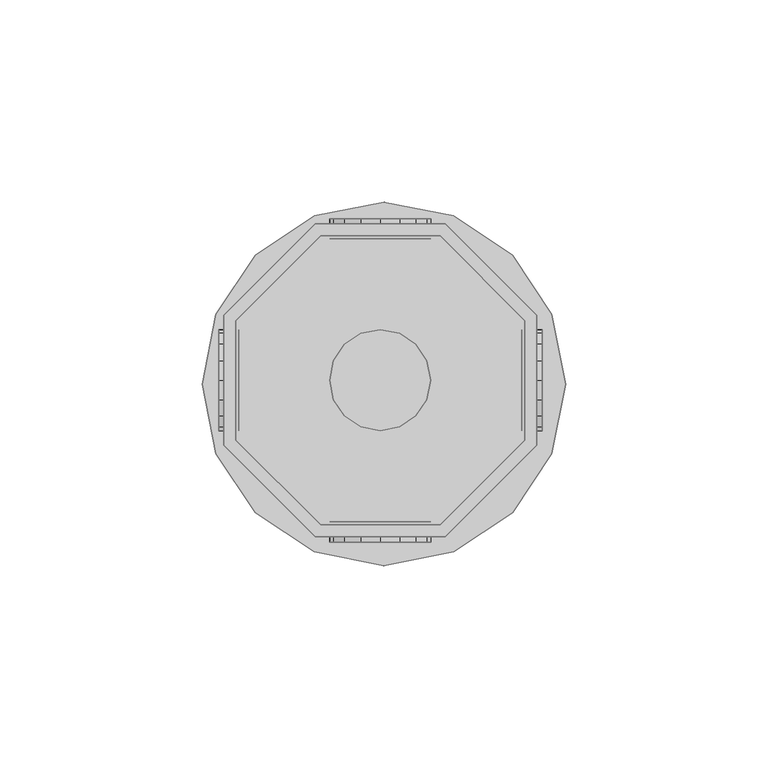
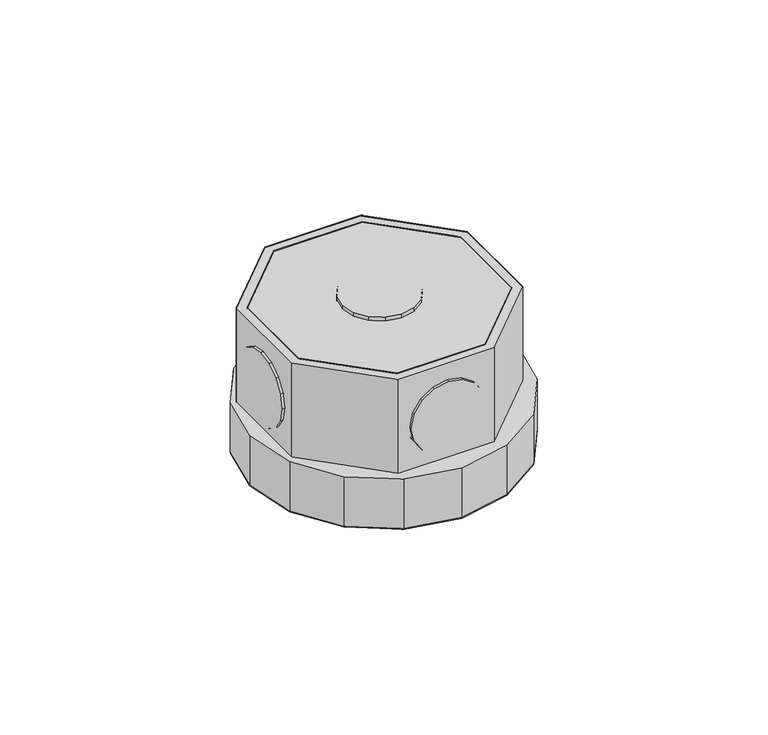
"""IFC4 building model written with IfcOpenShell, lengths in millimetres: light fixture geometry,  212836 :  212836."""

from ifc_helpers import new_model, si_unit, origin, place, context, project, spatial, triangles, source, transform, mapped, element, save


def light_fixture_33280a41(model_context):
    return source(origin(), model_context, "Body", "Tessellation", [
        triangles([(22344.998877, 12424.6997498, 2924.5999741), (22315.4006836, 12424.6997498, 2975.400071), (22315.4006836, 12424.6997498, 2924.5999741), (22344.998877, 12424.6997498, 2975.400071), (22346.2011292, 12350.199646, 2924.5999741), (22314.1007629, 12350.199646, 2975.400071), (22314.1007629, 12350.199646, 2924.5999741), (22346.2011292, 12350.199646, 2975.400071), (22294.3996399, 12403.6998688, 2975.400071), (22294.3996399, 12403.6998688, 2924.5999741), (22368.8997437, 12372.8994232, 2924.5999741), (22368.8997437, 12372.8994232, 2975.400071), (22294.3996399, 12374.1005127, 2975.400071), (22294.3996399, 12374.1005127, 2924.5999741), (22368.8997437, 12404.9997894, 2924.5999741), (22368.8997437, 12404.9997894, 2975.400071), (22315.4006836, 12353.1994629, 2975.400071), (22315.4006836, 12353.1994629, 2924.5999741), (22346.2011292, 12427.6995667, 2924.5999741), (22346.2011292, 12427.6995667, 2975.400071), (22344.998877, 12353.1994629, 2924.5999741), (22344.998877, 12353.1994629, 2975.400071), (22314.1007629, 12427.6995667, 2975.400071), (22314.1007629, 12427.6995667, 2924.5999741), (22365.8999268, 12374.1005127, 2924.5999741), (22365.8999268, 12374.1005127, 2975.400071), (22291.399823, 12404.9997894, 2975.400071), (22291.399823, 12404.9997894, 2924.5999741), (22291.399823, 12372.8994232, 2975.400071), (22365.8999268, 12403.6998688, 2975.400071), (22365.8999268, 12403.6998688, 2924.5999741), (22291.399823, 12372.8994232, 2924.5999741), (22294.3996399, 12374.1005127, 2972.3999634), (22315.4006836, 12353.1994629, 2972.3999634), (22344.998877, 12353.1994629, 2972.3999634), (22365.8999268, 12374.1005127, 2972.3999634), (22365.8999268, 12403.6998688, 2972.3999634), (22344.998877, 12424.6997498, 2972.3999634), (22315.4006836, 12424.6997498, 2972.3999634), (22294.3996399, 12403.6998688, 2972.3999634), (22291.399823, 12404.9997894, 2942.4000504), (22314.1007629, 12427.6995667, 2942.4000504), (22346.2011292, 12427.6995667, 2942.4000504), (22368.8997437, 12404.9997894, 2942.4000504), (22368.8997437, 12372.8994232, 2942.4000504), (22346.2011292, 12350.199646, 2942.4000504), (22314.1007629, 12350.199646, 2942.4000504), (22291.399823, 12372.8994232, 2942.4000504), (22313.8007812, 12346.4998718, 2942.4000504), (22289.499939, 12370.7995514, 2942.4000504), (22299.1993469, 12356.2004425, 2942.4000504), (22286.1001465, 12387.9996643, 2942.4000504), (22289.499939, 12405.2997711, 2942.4000504), (22299.1993469, 12419.9000427, 2942.4000504), (22313.8007812, 12429.5994507, 2942.4000504), (22331.0997253, 12433.0004059, 2942.4000504), (22348.301001, 12429.5994507, 2942.4000504), (22372.5995178, 12405.2997711, 2942.4000504), (22362.9001099, 12419.9000427, 2942.4000504), (22331.0997253, 12343.0000854, 2942.4000504), (22348.301001, 12346.4998718, 2942.4000504), (22362.9001099, 12356.2004425, 2942.4000504), (22372.5995178, 12370.7995514, 2942.4000504), (22376.0993042, 12387.9996643, 2942.4000504), (22289.499939, 12370.7995514, 2924.5999741), (22313.8007812, 12346.4998718, 2924.5999741), (22299.1993469, 12356.2004425, 2924.5999741), (22286.1001465, 12387.9996643, 2924.5999741), (22289.499939, 12405.2997711, 2924.5999741), (22299.1993469, 12419.9000427, 2924.5999741), (22313.8007812, 12429.5994507, 2924.5999741), (22331.0997253, 12433.0004059, 2924.5999741), (22348.301001, 12429.5994507, 2924.5999741), (22372.5995178, 12405.2997711, 2924.5999741), (22362.9001099, 12419.9000427, 2924.5999741), (22331.0997253, 12343.0000854, 2924.5999741), (22348.301001, 12346.4998718, 2924.5999741), (22362.9001099, 12356.2004425, 2924.5999741), (22372.5995178, 12370.7995514, 2924.5999741), (22376.0993042, 12387.9996643, 2924.5999741), (22318.6004883, 12428.8994934, 2952.6000092), (22325.4000732, 12428.8994934, 2945.9001274), (22321.3003235, 12428.8994934, 2948.5999626), (22317.7005432, 12428.8994934, 2957.4000069), (22330.1997803, 12428.8994934, 2944.8998978), (22318.6004883, 12428.8994934, 2962.2000046), (22334.9994873, 12428.8994934, 2945.9001274), (22321.3003235, 12428.8994934, 2966.2000511), (22338.9992432, 12428.8994934, 2948.5999626), (22325.4000732, 12428.8994934, 2968.8998863), (22341.6990784, 12428.8994934, 2952.6000092), (22330.1997803, 12428.8994934, 2969.900116), (22342.6990173, 12428.8994934, 2957.4000069), (22334.9994873, 12428.8994934, 2968.8998863), (22341.6990784, 12428.8994934, 2962.2000046), (22338.9992432, 12428.8994934, 2966.2000511), (22325.4000732, 12423.8997986, 2945.9001274), (22318.6004883, 12423.8997986, 2952.6000092), (22321.3003235, 12423.8997986, 2948.5999626), (22330.1997803, 12423.8997986, 2944.8998978), (22317.7005432, 12423.8997986, 2957.4000069), (22334.9994873, 12423.8997986, 2945.9001274), (22318.6004883, 12423.8997986, 2962.2000046), (22338.9992432, 12423.8997986, 2948.5999626), (22321.3003235, 12423.8997986, 2966.2000511), (22325.4000732, 12423.8997986, 2968.8998863), (22341.6990784, 12423.8997986, 2952.6000092), (22330.1997803, 12423.8997986, 2969.900116), (22342.6990173, 12423.8997986, 2957.4000069), (22334.9994873, 12423.8997986, 2968.8998863), (22341.6990784, 12423.8997986, 2962.2000046), (22338.9992432, 12423.8997986, 2966.2000511), (22318.6004883, 12353.8994202, 2952.6000092), (22325.4000732, 12353.8994202, 2945.9001274), (22321.3003235, 12353.8994202, 2948.5999626), (22317.7005432, 12353.8994202, 2957.4000069), (22330.1997803, 12353.8994202, 2944.8998978), (22318.6004883, 12353.8994202, 2962.2000046), (22334.9994873, 12353.8994202, 2945.9001274), (22321.3003235, 12353.8994202, 2966.2000511), (22338.9992432, 12353.8994202, 2948.5999626), (22325.4000732, 12353.8994202, 2968.8998863), (22341.6990784, 12353.8994202, 2952.6000092), (22330.1997803, 12353.8994202, 2969.900116), (22342.6990173, 12353.8994202, 2957.4000069), (22334.9994873, 12353.8994202, 2968.8998863), (22341.6990784, 12353.8994202, 2962.2000046), (22338.9992432, 12353.8994202, 2966.2000511), (22325.4000732, 12348.8997253, 2945.9001274), (22318.6004883, 12348.8997253, 2952.6000092), (22321.3003235, 12348.8997253, 2948.5999626), (22330.1997803, 12348.8997253, 2944.8998978), (22317.7005432, 12348.8997253, 2957.4000069), (22334.9994873, 12348.8997253, 2945.9001274), (22318.6004883, 12348.8997253, 2962.2000046), (22338.9992432, 12348.8997253, 2948.5999626), (22321.3003235, 12348.8997253, 2966.2000511), (22325.4000732, 12348.8997253, 2968.8998863), (22341.6990784, 12348.8997253, 2952.6000092), (22330.1997803, 12348.8997253, 2969.900116), (22342.6990173, 12348.8997253, 2957.4000069), (22334.9994873, 12348.8997253, 2968.8998863), (22341.6990784, 12348.8997253, 2962.2000046), (22338.9992432, 12348.8997253, 2966.2000511), (22295.1995911, 12384.0999023, 2945.9001274), (22295.1995911, 12377.4003113, 2952.6000092), (22295.1995911, 12380.1001465, 2948.5999626), (22295.1995911, 12388.8996094, 2944.8998978), (22295.1995911, 12376.4003723, 2957.4000069), (22295.1995911, 12393.7004791, 2945.9001274), (22295.1995911, 12377.4003113, 2962.2000046), (22295.1995911, 12397.8002289, 2948.5999626), (22295.1995911, 12380.1001465, 2966.2000511), (22295.1995911, 12384.0999023, 2968.8998863), (22295.1995911, 12400.5000641, 2952.6000092), (22295.1995911, 12388.8996094, 2969.900116), (22295.1995911, 12401.4000092, 2957.4000069), (22295.1995911, 12393.7004791, 2968.8998863), (22295.1995911, 12400.5000641, 2962.2000046), (22295.1995911, 12397.8002289, 2966.2000511), (22290.1998962, 12377.4003113, 2952.6000092), (22290.1998962, 12384.0999023, 2945.9001274), (22290.1998962, 12380.1001465, 2948.5999626), (22290.1998962, 12376.4003723, 2957.4000069), (22290.1998962, 12388.8996094, 2944.8998978), (22290.1998962, 12377.4003113, 2962.2000046), (22290.1998962, 12393.7004791, 2945.9001274), (22290.1998962, 12380.1001465, 2966.2000511), (22290.1998962, 12397.8002289, 2948.5999626), (22290.1998962, 12384.0999023, 2968.8998863), (22290.1998962, 12400.5000641, 2952.6000092), (22290.1998962, 12388.8996094, 2969.900116), (22290.1998962, 12401.4000092, 2957.4000069), (22290.1998962, 12393.7004791, 2968.8998863), (22290.1998962, 12400.5000641, 2962.2000046), (22290.1998962, 12397.8002289, 2966.2000511), (22370.1996643, 12384.0999023, 2945.9001274), (22370.1996643, 12377.4003113, 2952.6000092), (22370.1996643, 12380.1001465, 2948.5999626), (22370.1996643, 12388.8996094, 2944.8998978), (22370.1996643, 12376.4003723, 2957.4000069), (22370.1996643, 12393.7004791, 2945.9001274), (22370.1996643, 12377.4003113, 2962.2000046), (22370.1996643, 12397.8002289, 2948.5999626), (22370.1996643, 12380.1001465, 2966.2000511), (22370.1996643, 12384.0999023, 2968.8998863), (22370.1996643, 12400.5000641, 2952.6000092), (22370.1996643, 12388.8996094, 2969.900116), (22370.1996643, 12401.4000092, 2957.4000069), (22370.1996643, 12393.7004791, 2968.8998863), (22370.1996643, 12400.5000641, 2962.2000046), (22370.1996643, 12397.8002289, 2966.2000511), (22365.1999695, 12377.4003113, 2952.6000092), (22365.1999695, 12384.0999023, 2945.9001274), (22365.1999695, 12380.1001465, 2948.5999626), (22365.1999695, 12376.4003723, 2957.4000069), (22365.1999695, 12388.8996094, 2944.8998978), (22365.1999695, 12377.4003113, 2962.2000046), (22365.1999695, 12393.7004791, 2945.9001274), (22365.1999695, 12380.1001465, 2966.2000511), (22365.1999695, 12397.8002289, 2948.5999626), (22365.1999695, 12384.0999023, 2968.8998863), (22365.1999695, 12400.5000641, 2952.6000092), (22365.1999695, 12388.8996094, 2969.900116), (22365.1999695, 12401.4000092, 2957.4000069), (22365.1999695, 12393.7004791, 2968.8998863), (22365.1999695, 12400.5000641, 2962.2000046), (22365.1999695, 12397.8002289, 2966.2000511), (22325.4000732, 12377.4003113, 2976.9999733), (22318.6004883, 12384.0999023, 2976.9999733), (22321.3003235, 12380.1001465, 2976.9999733), (22317.7005432, 12388.8996094, 2976.9999733), (22330.1997803, 12376.4003723, 2976.9999733), (22318.6004883, 12393.7004791, 2976.9999733), (22334.9994873, 12377.4003113, 2976.9999733), (22321.3003235, 12397.8002289, 2976.9999733), (22338.9992432, 12380.1001465, 2976.9999733), (22325.4000732, 12400.5000641, 2976.9999733), (22341.6990784, 12384.0999023, 2976.9999733), (22330.1997803, 12401.4000092, 2976.9999733), (22342.6990173, 12388.8996094, 2976.9999733), (22334.9994873, 12400.5000641, 2976.9999733), (22341.6990784, 12393.7004791, 2976.9999733), (22338.9992432, 12397.8002289, 2976.9999733), (22318.6004883, 12384.0999023, 2971.9999878), (22325.4000732, 12377.4003113, 2971.9999878), (22321.3003235, 12380.1001465, 2971.9999878), (22317.7005432, 12388.8996094, 2971.9999878), (22330.1997803, 12376.4003723, 2971.9999878), (22318.6004883, 12393.7004791, 2971.9999878), (22334.9994873, 12377.4003113, 2971.9999878), (22321.3003235, 12397.8002289, 2971.9999878), (22338.9992432, 12380.1001465, 2971.9999878), (22325.4000732, 12400.5000641, 2971.9999878), (22341.6990784, 12384.0999023, 2971.9999878), (22330.1997803, 12401.4000092, 2971.9999878), (22342.6990173, 12388.8996094, 2971.9999878), (22334.9994873, 12400.5000641, 2971.9999878), (22341.6990784, 12393.7004791, 2971.9999878), (22338.9992432, 12397.8002289, 2971.9999878)], [[1, 2, 3], [2, 1, 4], [5, 6, 7], [6, 5, 8], [3, 9, 10], [9, 3, 2], [11, 8, 5], [8, 11, 12], [10, 13, 14], [13, 10, 9], [15, 12, 11], [12, 15, 16], [14, 17, 18], [17, 14, 13], [19, 16, 15], [16, 19, 20], [17, 21, 18], [21, 17, 22], [23, 19, 24], [19, 23, 20], [22, 25, 21], [25, 22, 26], [27, 24, 28], [24, 27, 23], [6, 13, 29], [29, 13, 27], [27, 13, 9], [27, 9, 23], [23, 9, 2], [23, 2, 4], [23, 4, 20], [20, 4, 30], [8, 17, 6], [6, 17, 13], [17, 8, 22], [12, 22, 8], [22, 12, 26], [30, 26, 12], [16, 30, 12], [20, 30, 16], [30, 1, 31], [1, 30, 4], [6, 32, 7], [32, 6, 29], [32, 14, 7], [28, 14, 32], [14, 28, 10], [24, 10, 28], [10, 24, 3], [1, 3, 24], [19, 1, 24], [31, 1, 19], [7, 18, 5], [14, 18, 7], [5, 18, 21], [5, 21, 11], [11, 21, 25], [11, 25, 31], [11, 31, 15], [15, 31, 19], [26, 31, 25], [31, 26, 30], [29, 28, 32], [28, 29, 27], [17, 33, 34], [33, 17, 13], [35, 17, 34], [17, 35, 22], [36, 22, 35], [22, 36, 26], [37, 26, 36], [26, 37, 30], [38, 30, 37], [30, 38, 4], [2, 38, 39], [38, 2, 4], [17, 9, 13], [9, 17, 22], [9, 22, 2], [2, 22, 26], [2, 26, 4], [4, 26, 30], [13, 40, 33], [40, 13, 9], [40, 34, 33], [35, 34, 40], [35, 40, 39], [35, 39, 36], [36, 39, 38], [36, 38, 37], [9, 39, 40], [39, 9, 2], [24, 41, 28], [41, 24, 42], [19, 42, 24], [42, 19, 43], [44, 19, 15], [19, 44, 43], [45, 15, 11], [15, 45, 44], [46, 11, 5], [11, 46, 45], [47, 5, 7], [5, 47, 46], [32, 47, 7], [47, 32, 48], [28, 48, 32], [48, 28, 41], [49, 50, 51], [48, 50, 49], [50, 48, 52], [41, 52, 48], [52, 41, 53], [53, 41, 54], [42, 54, 41], [54, 42, 55], [55, 42, 43], [55, 43, 56], [56, 43, 57], [57, 43, 44], [57, 44, 58], [57, 58, 59], [47, 49, 60], [49, 47, 48], [47, 60, 46], [61, 46, 60], [46, 61, 62], [46, 62, 45], [45, 62, 63], [44, 45, 63], [44, 63, 64], [44, 64, 58], [65, 66, 67], [66, 65, 32], [68, 32, 65], [32, 68, 28], [28, 68, 69], [70, 28, 69], [28, 70, 24], [71, 24, 70], [19, 24, 71], [19, 71, 72], [73, 19, 72], [19, 73, 15], [74, 15, 73], [74, 73, 75], [76, 66, 7], [32, 7, 66], [5, 76, 7], [76, 5, 77], [77, 5, 78], [11, 78, 5], [78, 11, 79], [79, 11, 15], [79, 15, 80], [80, 15, 74], [57, 75, 73], [75, 57, 59], [56, 73, 72], [73, 56, 57], [55, 72, 71], [72, 55, 56], [54, 71, 70], [71, 54, 55], [53, 70, 69], [70, 53, 54], [52, 69, 68], [69, 52, 53], [50, 68, 65], [68, 50, 52], [51, 65, 67], [65, 51, 50], [66, 51, 67], [51, 66, 49], [76, 49, 66], [49, 76, 60], [77, 60, 76], [60, 77, 61], [78, 61, 77], [61, 78, 62], [79, 62, 78], [62, 79, 63], [80, 63, 79], [63, 80, 64], [75, 58, 74], [58, 75, 59], [74, 64, 80], [64, 74, 58], [81, 82, 83], [82, 81, 84], [85, 82, 84], [85, 84, 86], [87, 85, 86], [87, 86, 88], [87, 88, 89], [89, 88, 90], [89, 90, 91], [91, 90, 92], [91, 92, 93], [93, 92, 94], [93, 94, 95], [95, 94, 96], [97, 98, 99], [98, 97, 100], [101, 98, 100], [101, 100, 102], [103, 101, 102], [103, 102, 104], [103, 104, 105], [105, 104, 106], [106, 104, 107], [106, 107, 108], [108, 107, 109], [108, 109, 110], [110, 109, 111], [110, 111, 112], [87, 104, 102], [104, 87, 89], [85, 102, 100], [102, 85, 87], [82, 100, 97], [100, 82, 85], [83, 97, 99], [97, 83, 82], [98, 83, 99], [83, 98, 81], [101, 81, 98], [81, 101, 84], [103, 84, 101], [84, 103, 86], [105, 86, 103], [86, 105, 88], [106, 88, 105], [88, 106, 90], [108, 90, 106], [90, 108, 92], [110, 92, 108], [92, 110, 94], [112, 94, 110], [94, 112, 96], [95, 112, 111], [112, 95, 96], [93, 111, 109], [111, 93, 95], [89, 107, 104], [107, 89, 91], [91, 109, 107], [109, 91, 93], [113, 114, 115], [114, 113, 116], [117, 114, 116], [117, 116, 118], [119, 117, 118], [119, 118, 120], [119, 120, 121], [121, 120, 122], [121, 122, 123], [123, 122, 124], [123, 124, 125], [125, 124, 126], [125, 126, 127], [127, 126, 128], [129, 130, 131], [130, 129, 132], [133, 130, 132], [133, 132, 134], [135, 133, 134], [135, 134, 136], [135, 136, 137], [137, 136, 138], [138, 136, 139], [138, 139, 140], [140, 139, 141], [140, 141, 142], [142, 141, 143], [142, 143, 144], [119, 136, 134], [136, 119, 121], [117, 134, 132], [134, 117, 119], [114, 132, 129], [132, 114, 117], [115, 129, 131], [129, 115, 114], [130, 115, 131], [115, 130, 113], [133, 113, 130], [113, 133, 116], [135, 116, 133], [116, 135, 118], [137, 118, 135], [118, 137, 120], [138, 120, 137], [120, 138, 122], [140, 122, 138], [122, 140, 124], [142, 124, 140], [124, 142, 126], [144, 126, 142], [126, 144, 128], [127, 144, 143], [144, 127, 128], [125, 143, 141], [143, 125, 127], [121, 139, 136], [139, 121, 123], [123, 141, 139], [141, 123, 125], [145, 146, 147], [146, 145, 148], [149, 146, 148], [149, 148, 150], [151, 149, 150], [151, 150, 152], [151, 152, 153], [153, 152, 154], [154, 152, 155], [154, 155, 156], [156, 155, 157], [156, 157, 158], [158, 157, 159], [158, 159, 160], [161, 162, 163], [162, 161, 164], [165, 162, 164], [165, 164, 166], [167, 165, 166], [167, 166, 168], [169, 167, 168], [169, 168, 170], [169, 170, 171], [171, 170, 172], [171, 172, 173], [173, 172, 174], [173, 174, 175], [175, 174, 176], [158, 176, 174], [176, 158, 160], [156, 174, 172], [174, 156, 158], [154, 172, 170], [172, 154, 156], [153, 170, 168], [170, 153, 154], [151, 168, 166], [168, 151, 153], [149, 166, 164], [166, 149, 151], [146, 164, 161], [164, 146, 149], [147, 161, 163], [161, 147, 146], [162, 147, 163], [147, 162, 145], [165, 145, 162], [145, 165, 148], [167, 148, 165], [148, 167, 150], [169, 150, 167], [150, 169, 152], [171, 152, 169], [152, 171, 155], [173, 155, 171], [155, 173, 157], [176, 159, 175], [159, 176, 160], [175, 157, 173], [157, 175, 159], [177, 178, 179], [178, 177, 180], [181, 178, 180], [181, 180, 182], [183, 181, 182], [183, 182, 184], [183, 184, 185], [185, 184, 186], [186, 184, 187], [186, 187, 188], [188, 187, 189], [188, 189, 190], [190, 189, 191], [190, 191, 192], [193, 194, 195], [194, 193, 196], [197, 194, 196], [197, 196, 198], [199, 197, 198], [199, 198, 200], [201, 199, 200], [201, 200, 202], [201, 202, 203], [203, 202, 204], [203, 204, 205], [205, 204, 206], [205, 206, 207], [207, 206, 208], [190, 208, 206], [208, 190, 192], [188, 206, 204], [206, 188, 190], [186, 204, 202], [204, 186, 188], [185, 202, 200], [202, 185, 186], [183, 200, 198], [200, 183, 185], [181, 198, 196], [198, 181, 183], [178, 196, 193], [196, 178, 181], [179, 193, 195], [193, 179, 178], [194, 179, 195], [179, 194, 177], [197, 177, 194], [177, 197, 180], [199, 180, 197], [180, 199, 182], [201, 182, 199], [182, 201, 184], [203, 184, 201], [184, 203, 187], [205, 187, 203], [187, 205, 189], [208, 191, 207], [191, 208, 192], [207, 189, 205], [189, 207, 191], [209, 210, 211], [212, 210, 209], [212, 209, 213], [214, 212, 213], [214, 213, 215], [216, 214, 215], [216, 215, 217], [216, 217, 218], [218, 217, 219], [218, 219, 220], [220, 219, 221], [220, 221, 222], [222, 221, 223], [222, 223, 224], [225, 226, 227], [226, 225, 228], [229, 226, 228], [229, 228, 230], [231, 229, 230], [231, 230, 232], [231, 232, 233], [233, 232, 234], [233, 234, 235], [235, 234, 236], [235, 236, 237], [237, 236, 238], [237, 238, 239], [239, 238, 240], [222, 240, 238], [240, 222, 224], [220, 238, 236], [238, 220, 222], [218, 236, 234], [236, 218, 220], [216, 234, 232], [234, 216, 218], [214, 232, 230], [232, 214, 216], [212, 230, 228], [230, 212, 214], [210, 228, 225], [228, 210, 212], [211, 225, 227], [225, 211, 210], [226, 211, 227], [211, 226, 209], [229, 209, 226], [209, 229, 213], [231, 213, 229], [213, 231, 215], [233, 215, 231], [215, 233, 217], [235, 217, 233], [217, 235, 219], [237, 219, 235], [219, 237, 221], [240, 223, 239], [223, 240, 224], [239, 221, 237], [221, 239, 223]], closed=False),
    ])


if __name__ == "__main__":
    model = new_model("IFC4")
    model_context = context("Model", 3, world=origin())
    ifc_project = project(units=[si_unit("LENGTHUNIT", "METRE", prefix="MILLI")], contexts=[model_context])
    site = spatial("IfcSite", under=ifc_project)
    building = spatial("IfcBuilding", under=site)
    placement = place(None, origin())
    light_fixture_shape = light_fixture_33280a41(model_context)
    element("IfcLightFixture", 1, ObjectType=" 212836 :  212836", at=placement, inside=building, context=model_context, shape_type="MappedRepresentation", body=[
        mapped(light_fixture_shape, transform((0.0, 0.0, 0.0), x_axis=(1.0, 0.0, 0.0), y_axis=(0.0, 1.0, 0.0), z_axis=(0.0, 0.0, 1.0))),
    ])
    save(model, "model.ifc")
